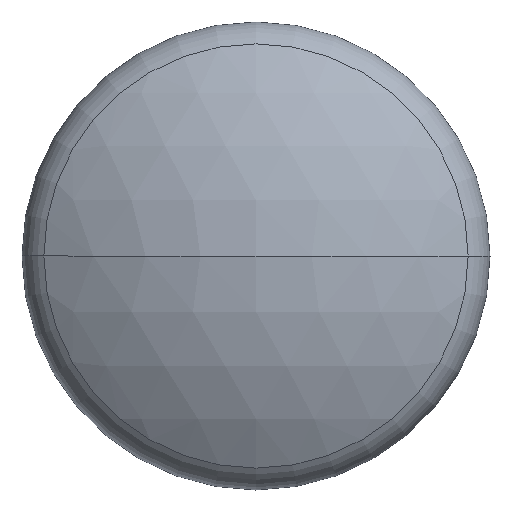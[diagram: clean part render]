
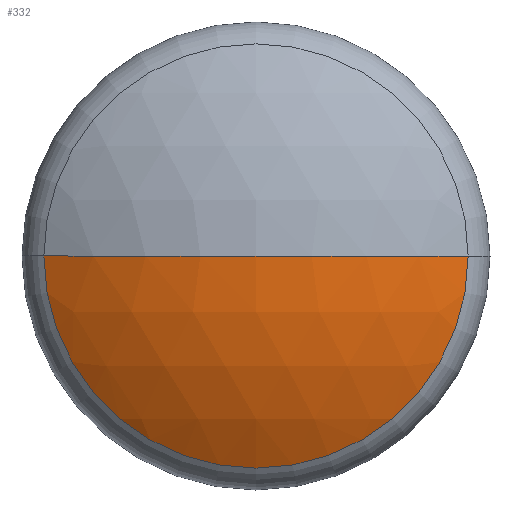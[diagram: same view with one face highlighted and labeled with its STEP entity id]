
A CAD part, front view. The second image highlights one B-rep face of the part: STEP entity #332.
In plain terms, the highlighted spherical face has radius 53.975 mm.
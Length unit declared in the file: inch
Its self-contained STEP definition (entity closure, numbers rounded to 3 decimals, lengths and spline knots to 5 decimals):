
#1 = CARTESIAN_POINT ( 'NONE',  ( 1.13333, -0.67255, 0. ) ) ;
#6 = DIRECTION ( 'NONE',  ( -1., 0., 0. ) ) ;
#28 = DIRECTION ( 'NONE',  ( -1., 0., 0. ) ) ;
#33 = DIRECTION ( 'NONE',  ( 0., 0., -1. ) ) ;
#42 = AXIS2_PLACEMENT_3D ( 'NONE', #321, #189, #81 ) ;
#81 = DIRECTION ( 'NONE',  ( 1., 0., 0. ) ) ;
#90 = FACE_OUTER_BOUND ( 'NONE', #98, .T. ) ;
#95 = CARTESIAN_POINT ( 'NONE',  ( -1.13333, -0.67255, 0. ) ) ;
#98 = EDGE_LOOP ( 'NONE', ( #200, #122, #274 ) ) ;
#117 = AXIS2_PLACEMENT_3D ( 'NONE', #327, #140, #28 ) ;
#121 = CARTESIAN_POINT ( 'NONE',  ( 0., 1.125, 0. ) ) ;
#122 = ORIENTED_EDGE ( 'NONE', *, *, #279, .T. ) ;
#136 = CIRCLE ( 'NONE', #209, 2.125 ) ;
#140 = DIRECTION ( 'NONE',  ( 0., 0., -1. ) ) ;
#164 = EDGE_CURVE ( 'NONE', #346, #236, #136, .T. ) ;
#168 = CIRCLE ( 'NONE', #42, 1.13333 ) ;
#189 = DIRECTION ( 'NONE',  ( 0., -1., 0. ) ) ;
#196 = CARTESIAN_POINT ( 'NONE',  ( 0., -1., 0. ) ) ;
#200 = ORIENTED_EDGE ( 'NONE', *, *, #226, .T. ) ;
#209 = AXIS2_PLACEMENT_3D ( 'NONE', #222, #256, #287 ) ;
#222 = CARTESIAN_POINT ( 'NONE',  ( 0., 1.125, 0. ) ) ;
#226 = EDGE_CURVE ( 'NONE', #346, #294, #168, .T. ) ;
#236 = VERTEX_POINT ( 'NONE', #196 ) ;
#237 = AXIS2_PLACEMENT_3D ( 'NONE', #121, #33, #6 ) ;
#256 = DIRECTION ( 'NONE',  ( 0., 0., 1. ) ) ;
#274 = ORIENTED_EDGE ( 'NONE', *, *, #164, .F. ) ;
#279 = EDGE_CURVE ( 'NONE', #294, #236, #374, .T. ) ;
#287 = DIRECTION ( 'NONE',  ( 1., 0., 0. ) ) ;
#294 = VERTEX_POINT ( 'NONE', #1 ) ;
#298 = SPHERICAL_SURFACE ( 'NONE', #237, 2.125 ) ;
#321 = CARTESIAN_POINT ( 'NONE',  ( 0., -0.67255, 0. ) ) ;
#327 = CARTESIAN_POINT ( 'NONE',  ( 0., 1.125, 0. ) ) ;
#332 = ADVANCED_FACE ( 'NONE', ( #90 ), #298, .T. ) ;
#346 = VERTEX_POINT ( 'NONE', #95 ) ;
#374 = CIRCLE ( 'NONE', #117, 2.125 ) ;
